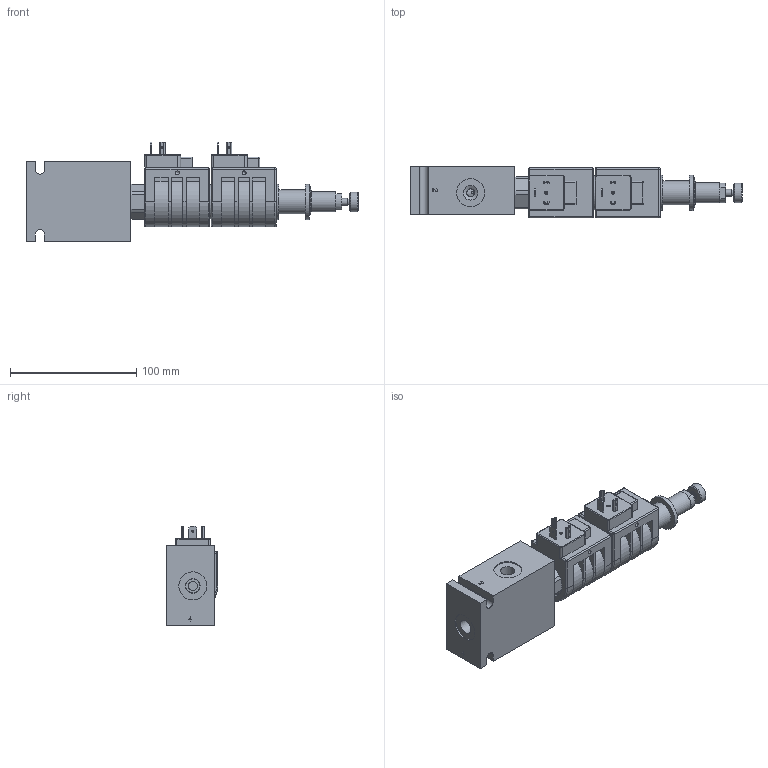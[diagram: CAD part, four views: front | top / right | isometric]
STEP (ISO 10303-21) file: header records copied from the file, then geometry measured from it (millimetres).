
FILE_DESCRIPTION( ( 'Unknown' ), '1' );
FILE_NAME( 'G:/Graphic Design/Graphic Design 2/Data Sheets/SOLENOID OPERATED VALVES/4_STEP/4W3P Motor Centre/D-DGS4M0MA4.stp', 'Unknown', ( 'Unknown' ), ( 'Unknown' ), 'PSStep 16.0.42', 'Unknown', ' ' );
FILE_SCHEMA( ( 'AUTOMOTIVE_DESIGN { 1 0 10303 214 1 1 1 1 }' ) );
Length unit declared in the file: millimetre
Products named in the file (25): dgs4m0m; DGS4M0M-3D Full1; DGS4M0M-3D Full2; DGS4M0M-3D Full3; DGS4M0M-3D Full4; DGS4M0M-3D Full5; DGS4M0M-3D Full6; DGS4M0M-3D Full7; DGS4M0M-3D Full8; DGS4M0M-3D Full9; DGS4M0M-3D Full10; DGS4M0M-3D Full11; DGS4M0M-3D Full12; DGS4M0M-3D Full13; DGS4M0M-3D Full14; DGS4M0M-3D Full15; DGS4M0M-3D Full16; DGS4M0M-3D Full17; DGS4M0M-3D Full18; D-LHC12; LHC-Body; LHC-Disc; PT-EL-HC-TerminalConnectors; Assem1; B-DDGA4
Assembly tree (26 placements, depth 3):
  Assem1
    B-DDGA4
    dgs4m0m
      DGS4M0M-3D Full1
      DGS4M0M-3D Full2
      DGS4M0M-3D Full3
      DGS4M0M-3D Full4
      DGS4M0M-3D Full5
      DGS4M0M-3D Full6
      DGS4M0M-3D Full7
      DGS4M0M-3D Full8
      DGS4M0M-3D Full9
      DGS4M0M-3D Full10
      DGS4M0M-3D Full11
      DGS4M0M-3D Full12
      DGS4M0M-3D Full13
      DGS4M0M-3D Full14
      DGS4M0M-3D Full15
      DGS4M0M-3D Full16
      DGS4M0M-3D Full17
      DGS4M0M-3D Full18
    D-LHC12  x2
      LHC-Body
      LHC-Disc
      PT-EL-HC-TerminalConnectors
Bounding box: 262.85 x 40.9 x 79.1 mm (x, y, z)
Surface area: 95662.5 mm2 (no closed solid volume)
Topology: 0 solids, 1219 shells, 1219 faces, 5755 edges, 5550 vertices
Faces by surface type: plane 668, extrusion 236, cylinder 229, cone 50, torus 22, sphere 14
Full cylindrical faces by diameter (mm): 0.2 x4, 1 x2, 1.5 x6, 1.6 x24, 2.5 x2, 2.794 x16, 3 x4, 5.08 x1, 5.461 x1, 6.3 x2, 6.35 x2, 7.137 x1, 11 x1, 11.11 x1, 11.5 x7, 11.913 x1, 12.357 x1, 12.827 x1, 12.992 x1, 13.043 x2, 14 x1, 14.287 x1, 14.592 x1, 14.643 x2, 15.494 x1, 15.723 x2, 15.735 x2, 15.875 x5, 15.9 x1, 16.027 x1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
Entity records: 46028 total; most frequent: CARTESIAN_POINT 14000, DIRECTION 4680, VERTEX_POINT 3360, ORIENTED_EDGE 3352, EDGE_CURVE 3352, VECTOR 1804, LINE 1686, AXIS2_PLACEMENT_3D 1438
